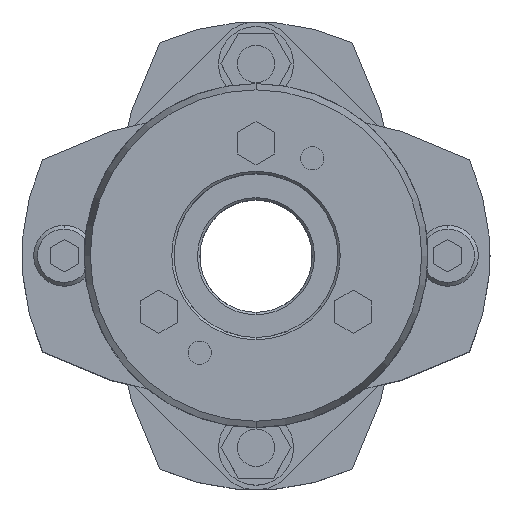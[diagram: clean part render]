
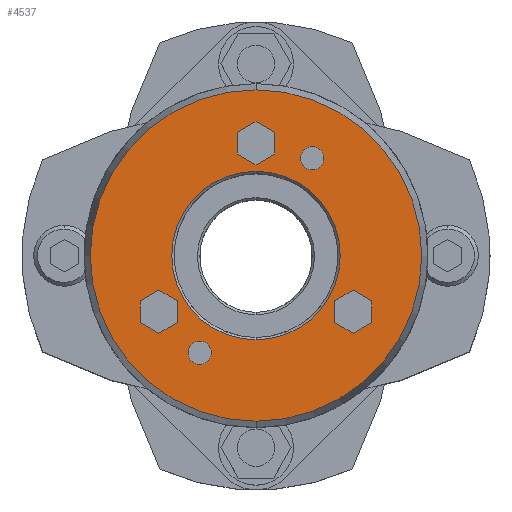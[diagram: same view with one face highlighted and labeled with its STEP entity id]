
A CAD part, top view. The second image highlights one B-rep face of the part: STEP entity #4537.
In plain terms, the highlighted planar face has unit normal (0, 0, 1).
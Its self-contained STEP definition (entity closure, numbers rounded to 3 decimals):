
#2291=CARTESIAN_POINT('',(0.,18.,55.5));
#2292=VERTEX_POINT('',#2291);
#2308=CARTESIAN_POINT('',(0.,-18.,55.5));
#2309=VERTEX_POINT('',#2308);
#2316=CARTESIAN_POINT('',(0.,0.,55.5));
#2317=DIRECTION('',(0.0,0.0,1.0));
#2318=DIRECTION('',(0.0,1.0,0.0));
#2319=AXIS2_PLACEMENT_3D('',#2316,#2317,#2318);
#2320=CIRCLE('',#2319,18.0);
#2321=EDGE_CURVE('',#2309,#2292,#2320,.T.);
#2437=CARTESIAN_POINT('',(0.,-35.41,55.5));
#2438=VERTEX_POINT('',#2437);
#2447=CARTESIAN_POINT('',(0.,35.41,55.5));
#2448=VERTEX_POINT('',#2447);
#2449=CARTESIAN_POINT('',(0.,0.,55.5));
#2450=DIRECTION('',(0.0,0.0,-1.0));
#2451=DIRECTION('',(0.0,-1.0,0.0));
#2452=AXIS2_PLACEMENT_3D('',#2449,#2450,#2451);
#2453=CIRCLE('',#2452,35.41);
#2454=EDGE_CURVE('',#2438,#2448,#2453,.T.);
#2623=CARTESIAN_POINT('',(-12.,-18.285,55.5));
#2624=VERTEX_POINT('',#2623);
#2640=CARTESIAN_POINT('',(-12.,-23.285,55.5));
#2641=VERTEX_POINT('',#2640);
#2648=CARTESIAN_POINT('',(-12.,-20.785,55.5));
#2649=DIRECTION('',(0.0,0.0,-1.0));
#2650=DIRECTION('',(0.0,1.0,0.0));
#2651=AXIS2_PLACEMENT_3D('',#2648,#2649,#2650);
#2652=CIRCLE('',#2651,2.5);
#2653=EDGE_CURVE('',#2624,#2641,#2652,.T.);
#2665=CARTESIAN_POINT('',(12.,23.285,55.5));
#2666=VERTEX_POINT('',#2665);
#2682=CARTESIAN_POINT('',(12.,18.285,55.5));
#2683=VERTEX_POINT('',#2682);
#2690=CARTESIAN_POINT('',(12.,20.785,55.5));
#2691=DIRECTION('',(0.0,0.0,-1.0));
#2692=DIRECTION('',(0.0,1.0,0.0));
#2693=AXIS2_PLACEMENT_3D('',#2690,#2691,#2692);
#2694=CIRCLE('',#2693,2.5);
#2695=EDGE_CURVE('',#2666,#2683,#2694,.T.);
#3446=CARTESIAN_POINT('',(12.,20.785,55.5));
#3447=DIRECTION('',(0.0,0.0,-1.0));
#3448=DIRECTION('',(0.0,1.0,0.0));
#3449=AXIS2_PLACEMENT_3D('',#3446,#3447,#3448);
#3450=CIRCLE('',#3449,2.5);
#3451=EDGE_CURVE('',#2683,#2666,#3450,.T.);
#3480=CARTESIAN_POINT('',(-12.,-20.785,55.5));
#3481=DIRECTION('',(0.0,0.0,-1.0));
#3482=DIRECTION('',(0.0,1.0,0.0));
#3483=AXIS2_PLACEMENT_3D('',#3480,#3481,#3482);
#3484=CIRCLE('',#3483,2.5);
#3485=EDGE_CURVE('',#2641,#2624,#3484,.T.);
#3523=CARTESIAN_POINT('',(20.785,-7.381,55.5));
#3524=VERTEX_POINT('',#3523);
#3531=CARTESIAN_POINT('',(16.785,-9.691,55.5));
#3532=VERTEX_POINT('',#3531);
#3533=CARTESIAN_POINT('',(16.785,-9.691,55.5));
#3534=DIRECTION('',(0.866,0.5,0.0));
#3535=VECTOR('',#3534,4.619);
#3536=LINE('',#3533,#3535);
#3537=EDGE_CURVE('',#3532,#3524,#3536,.T.);
#3561=CARTESIAN_POINT('',(24.785,-9.691,55.5));
#3562=VERTEX_POINT('',#3561);
#3569=CARTESIAN_POINT('',(20.785,-7.381,55.5));
#3570=DIRECTION('',(0.866,-0.5,0.0));
#3571=VECTOR('',#3570,4.619);
#3572=LINE('',#3569,#3571);
#3573=EDGE_CURVE('',#3524,#3562,#3572,.T.);
#3592=CARTESIAN_POINT('',(24.785,-14.309,55.5));
#3593=VERTEX_POINT('',#3592);
#3600=CARTESIAN_POINT('',(24.785,-9.691,55.5));
#3601=DIRECTION('',(0.0,-1.0,0.0));
#3602=VECTOR('',#3601,4.619);
#3603=LINE('',#3600,#3602);
#3604=EDGE_CURVE('',#3562,#3593,#3603,.T.);
#3623=CARTESIAN_POINT('',(20.785,-16.619,55.5));
#3624=VERTEX_POINT('',#3623);
#3631=CARTESIAN_POINT('',(24.785,-14.309,55.5));
#3632=DIRECTION('',(-0.866,-0.5,0.0));
#3633=VECTOR('',#3632,4.619);
#3634=LINE('',#3631,#3633);
#3635=EDGE_CURVE('',#3593,#3624,#3634,.T.);
#3654=CARTESIAN_POINT('',(16.785,-14.309,55.5));
#3655=VERTEX_POINT('',#3654);
#3662=CARTESIAN_POINT('',(20.785,-16.619,55.5));
#3663=DIRECTION('',(-0.866,0.5,0.0));
#3664=VECTOR('',#3663,4.619);
#3665=LINE('',#3662,#3664);
#3666=EDGE_CURVE('',#3624,#3655,#3665,.T.);
#3684=CARTESIAN_POINT('',(16.785,-14.309,55.5));
#3685=DIRECTION('',(0.0,1.0,0.0));
#3686=VECTOR('',#3685,4.619);
#3687=LINE('',#3684,#3686);
#3688=EDGE_CURVE('',#3655,#3532,#3687,.T.);
#3723=CARTESIAN_POINT('',(0.,28.619,55.5));
#3724=VERTEX_POINT('',#3723);
#3731=CARTESIAN_POINT('',(-4.,26.309,55.5));
#3732=VERTEX_POINT('',#3731);
#3733=CARTESIAN_POINT('',(-4.,26.309,55.5));
#3734=DIRECTION('',(0.866,0.5,0.0));
#3735=VECTOR('',#3734,4.619);
#3736=LINE('',#3733,#3735);
#3737=EDGE_CURVE('',#3732,#3724,#3736,.T.);
#3761=CARTESIAN_POINT('',(4.,26.309,55.5));
#3762=VERTEX_POINT('',#3761);
#3769=CARTESIAN_POINT('',(0.,28.619,55.5));
#3770=DIRECTION('',(0.866,-0.5,0.0));
#3771=VECTOR('',#3770,4.619);
#3772=LINE('',#3769,#3771);
#3773=EDGE_CURVE('',#3724,#3762,#3772,.T.);
#3792=CARTESIAN_POINT('',(4.,21.691,55.5));
#3793=VERTEX_POINT('',#3792);
#3800=CARTESIAN_POINT('',(4.,26.309,55.5));
#3801=DIRECTION('',(0.0,-1.0,0.0));
#3802=VECTOR('',#3801,4.619);
#3803=LINE('',#3800,#3802);
#3804=EDGE_CURVE('',#3762,#3793,#3803,.T.);
#3823=CARTESIAN_POINT('',(0.,19.381,55.5));
#3824=VERTEX_POINT('',#3823);
#3831=CARTESIAN_POINT('',(4.,21.691,55.5));
#3832=DIRECTION('',(-0.866,-0.5,0.0));
#3833=VECTOR('',#3832,4.619);
#3834=LINE('',#3831,#3833);
#3835=EDGE_CURVE('',#3793,#3824,#3834,.T.);
#3854=CARTESIAN_POINT('',(-4.,21.691,55.5));
#3855=VERTEX_POINT('',#3854);
#3862=CARTESIAN_POINT('',(0.,19.381,55.5));
#3863=DIRECTION('',(-0.866,0.5,0.0));
#3864=VECTOR('',#3863,4.619);
#3865=LINE('',#3862,#3864);
#3866=EDGE_CURVE('',#3824,#3855,#3865,.T.);
#3884=CARTESIAN_POINT('',(-4.,21.691,55.5));
#3885=DIRECTION('',(0.0,1.0,0.0));
#3886=VECTOR('',#3885,4.619);
#3887=LINE('',#3884,#3886);
#3888=EDGE_CURVE('',#3855,#3732,#3887,.T.);
#3923=CARTESIAN_POINT('',(-20.785,-7.381,55.5));
#3924=VERTEX_POINT('',#3923);
#3931=CARTESIAN_POINT('',(-24.785,-9.691,55.5));
#3932=VERTEX_POINT('',#3931);
#3933=CARTESIAN_POINT('',(-24.785,-9.691,55.5));
#3934=DIRECTION('',(0.866,0.5,0.0));
#3935=VECTOR('',#3934,4.619);
#3936=LINE('',#3933,#3935);
#3937=EDGE_CURVE('',#3932,#3924,#3936,.T.);
#3961=CARTESIAN_POINT('',(-16.785,-9.691,55.5));
#3962=VERTEX_POINT('',#3961);
#3969=CARTESIAN_POINT('',(-20.785,-7.381,55.5));
#3970=DIRECTION('',(0.866,-0.5,0.0));
#3971=VECTOR('',#3970,4.619);
#3972=LINE('',#3969,#3971);
#3973=EDGE_CURVE('',#3924,#3962,#3972,.T.);
#3992=CARTESIAN_POINT('',(-16.785,-14.309,55.5));
#3993=VERTEX_POINT('',#3992);
#4000=CARTESIAN_POINT('',(-16.785,-9.691,55.5));
#4001=DIRECTION('',(0.0,-1.0,0.0));
#4002=VECTOR('',#4001,4.619);
#4003=LINE('',#4000,#4002);
#4004=EDGE_CURVE('',#3962,#3993,#4003,.T.);
#4023=CARTESIAN_POINT('',(-20.785,-16.619,55.5));
#4024=VERTEX_POINT('',#4023);
#4031=CARTESIAN_POINT('',(-16.785,-14.309,55.5));
#4032=DIRECTION('',(-0.866,-0.5,0.0));
#4033=VECTOR('',#4032,4.619);
#4034=LINE('',#4031,#4033);
#4035=EDGE_CURVE('',#3993,#4024,#4034,.T.);
#4054=CARTESIAN_POINT('',(-24.785,-14.309,55.5));
#4055=VERTEX_POINT('',#4054);
#4062=CARTESIAN_POINT('',(-20.785,-16.619,55.5));
#4063=DIRECTION('',(-0.866,0.5,0.0));
#4064=VECTOR('',#4063,4.619);
#4065=LINE('',#4062,#4064);
#4066=EDGE_CURVE('',#4024,#4055,#4065,.T.);
#4084=CARTESIAN_POINT('',(-24.785,-14.309,55.5));
#4085=DIRECTION('',(0.0,1.0,0.0));
#4086=VECTOR('',#4085,4.619);
#4087=LINE('',#4084,#4086);
#4088=EDGE_CURVE('',#4055,#3932,#4087,.T.);
#4476=CARTESIAN_POINT('',(0.,0.,55.5));
#4477=DIRECTION('',(0.0,0.0,-1.0));
#4478=DIRECTION('',(0.0,-1.0,0.0));
#4479=AXIS2_PLACEMENT_3D('',#4476,#4477,#4478);
#4480=CIRCLE('',#4479,35.41);
#4481=EDGE_CURVE('',#2448,#2438,#4480,.T.);
#4486=CARTESIAN_POINT('',(0.,3.114,55.5));
#4487=DIRECTION('',(0.0,0.0,1.0));
#4488=DIRECTION('',(0.0,1.0,0.0));
#4489=AXIS2_PLACEMENT_3D('',#4486,#4487,#4488);
#4490=PLANE('',#4489);
#4491=ORIENTED_EDGE('',*,*,#4481,.F.);
#4492=ORIENTED_EDGE('',*,*,#2454,.F.);
#4493=EDGE_LOOP('',(#4491,#4492));
#4494=FACE_OUTER_BOUND('',#4493,.T.);
#4495=ORIENTED_EDGE('',*,*,#2695,.T.);
#4496=ORIENTED_EDGE('',*,*,#3451,.T.);
#4497=EDGE_LOOP('',(#4495,#4496));
#4498=FACE_BOUND('',#4497,.T.);
#4499=ORIENTED_EDGE('',*,*,#2653,.T.);
#4500=ORIENTED_EDGE('',*,*,#3485,.T.);
#4501=EDGE_LOOP('',(#4499,#4500));
#4502=FACE_BOUND('',#4501,.T.);
#4503=ORIENTED_EDGE('',*,*,#3537,.T.);
#4504=ORIENTED_EDGE('',*,*,#3573,.T.);
#4505=ORIENTED_EDGE('',*,*,#3604,.T.);
#4506=ORIENTED_EDGE('',*,*,#3635,.T.);
#4507=ORIENTED_EDGE('',*,*,#3666,.T.);
#4508=ORIENTED_EDGE('',*,*,#3688,.T.);
#4509=EDGE_LOOP('',(#4503,#4504,#4505,#4506,#4507,#4508));
#4510=FACE_BOUND('',#4509,.T.);
#4511=ORIENTED_EDGE('',*,*,#3737,.T.);
#4512=ORIENTED_EDGE('',*,*,#3773,.T.);
#4513=ORIENTED_EDGE('',*,*,#3804,.T.);
#4514=ORIENTED_EDGE('',*,*,#3835,.T.);
#4515=ORIENTED_EDGE('',*,*,#3866,.T.);
#4516=ORIENTED_EDGE('',*,*,#3888,.T.);
#4517=EDGE_LOOP('',(#4511,#4512,#4513,#4514,#4515,#4516));
#4518=FACE_BOUND('',#4517,.T.);
#4519=ORIENTED_EDGE('',*,*,#3937,.T.);
#4520=ORIENTED_EDGE('',*,*,#3973,.T.);
#4521=ORIENTED_EDGE('',*,*,#4004,.T.);
#4522=ORIENTED_EDGE('',*,*,#4035,.T.);
#4523=ORIENTED_EDGE('',*,*,#4066,.T.);
#4524=ORIENTED_EDGE('',*,*,#4088,.T.);
#4525=EDGE_LOOP('',(#4519,#4520,#4521,#4522,#4523,#4524));
#4526=FACE_BOUND('',#4525,.T.);
#4527=ORIENTED_EDGE('',*,*,#2321,.F.);
#4528=CARTESIAN_POINT('',(0.,0.,55.5));
#4529=DIRECTION('',(0.0,0.0,1.0));
#4530=DIRECTION('',(0.0,1.0,0.0));
#4531=AXIS2_PLACEMENT_3D('',#4528,#4529,#4530);
#4532=CIRCLE('',#4531,18.0);
#4533=EDGE_CURVE('',#2292,#2309,#4532,.T.);
#4534=ORIENTED_EDGE('',*,*,#4533,.F.);
#4535=EDGE_LOOP('',(#4527,#4534));
#4536=FACE_BOUND('',#4535,.T.);
#4537=ADVANCED_FACE('',(#4494,#4498,#4502,#4510,#4518,#4526,#4536),#4490,.T.);
